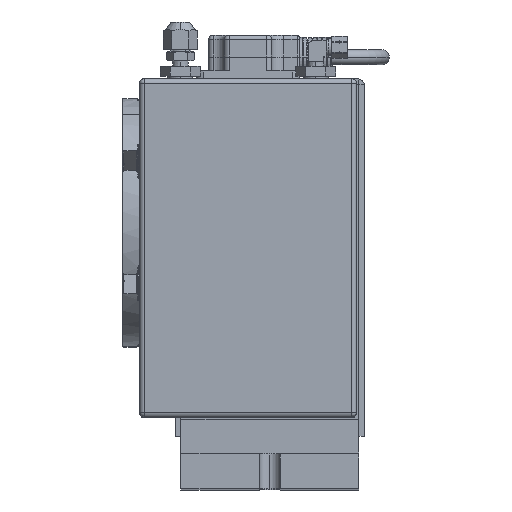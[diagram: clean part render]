
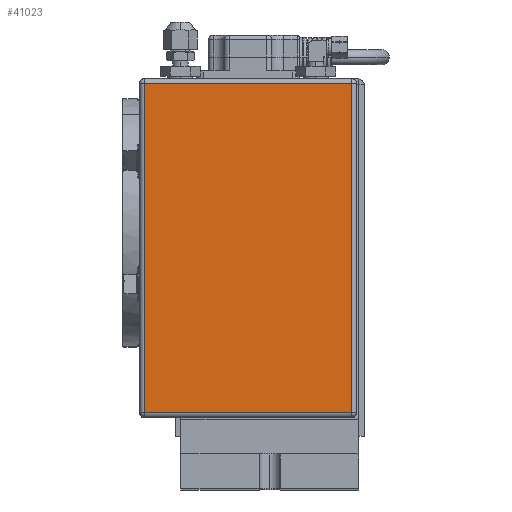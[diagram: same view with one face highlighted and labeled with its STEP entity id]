
A CAD part, top view. The second image highlights one B-rep face of the part: STEP entity #41023.
In plain terms, the highlighted planar face has unit normal (0, 0, 1).
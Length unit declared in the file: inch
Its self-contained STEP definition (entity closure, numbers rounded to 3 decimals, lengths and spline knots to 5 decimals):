
#4542 = LINE ( 'NONE', #20339, #55634 ) ;
#5807 = ORIENTED_EDGE ( 'NONE', *, *, #21365, .T. ) ;
#11626 = VECTOR ( 'NONE', #13564, 39.37008 ) ;
#13564 = DIRECTION ( 'NONE',  ( 0., 1., 0. ) ) ;
#13760 = CARTESIAN_POINT ( 'NONE',  ( -0.55, -4.83, 10.90455 ) ) ;
#16903 = ORIENTED_EDGE ( 'NONE', *, *, #41732, .T. ) ;
#17009 = ORIENTED_EDGE ( 'NONE', *, *, #52354, .T. ) ;
#19624 = LINE ( 'NONE', #20394, #62255 ) ;
#20339 = CARTESIAN_POINT ( 'NONE',  ( -3.18, -0.66, 10.90455 ) ) ;
#20394 = CARTESIAN_POINT ( 'NONE',  ( -0.55, 3.51, 10.90455 ) ) ;
#20907 = CARTESIAN_POINT ( 'NONE',  ( -0.55, -0.66, 10.90455 ) ) ;
#21267 = DIRECTION ( 'NONE',  ( -1., 0., 0. ) ) ;
#21365 = EDGE_CURVE ( 'Defeatured_3_4+Defeatured_3_15+Defeatured_3_14+Defeatured_3_10', #40507, #58435, #37298, .T. ) ;
#25267 = EDGE_LOOP ( 'NONE', ( #5807, #17009, #31488, #16903 ) ) ;
#25444 = CARTESIAN_POINT ( 'NONE',  ( 2.08, -4.83, 10.90455 ) ) ;
#26188 = FACE_OUTER_BOUND ( 'NONE', #25267, .T. ) ;
#26251 = AXIS2_PLACEMENT_3D ( 'NONE', #20907, #55998, #41278 ) ;
#31488 = ORIENTED_EDGE ( 'NONE', *, *, #34519, .T. ) ;
#34519 = EDGE_CURVE ( 'Defeatured_3_4+Defeatured_3_9+Defeatured_3_10+Defeatured_3_14', #43089, #58695, #19624, .T. ) ;
#34975 = VECTOR ( 'NONE', #48407, 39.37008 ) ;
#37298 = LINE ( 'NONE', #13760, #34975 ) ;
#40297 = DIRECTION ( 'NONE',  ( 0., -1., 0. ) ) ;
#40507 = VERTEX_POINT ( 'NONE', #60419 ) ;
#41023 = ADVANCED_FACE ( 'Defeatured_3_4', ( #26188 ), #60737, .F. ) ;
#41278 = DIRECTION ( 'NONE',  ( -1., 0., 0. ) ) ;
#41732 = EDGE_CURVE ( 'Defeatured_3_4+Defeatured_3_14+Defeatured_3_9+Defeatured_3_15', #58695, #40507, #4542, .T. ) ;
#43089 = VERTEX_POINT ( 'NONE', #56156 ) ;
#43213 = CARTESIAN_POINT ( 'NONE',  ( 2.08, -0.66, 10.90455 ) ) ;
#48407 = DIRECTION ( 'NONE',  ( 1., 0., 0. ) ) ;
#50504 = CARTESIAN_POINT ( 'NONE',  ( -3.18, 3.51, 10.90455 ) ) ;
#51909 = LINE ( 'NONE', #43213, #11626 ) ;
#52354 = EDGE_CURVE ( 'Defeatured_3_4+Defeatured_3_10+Defeatured_3_15+Defeatured_3_9', #58435, #43089, #51909, .T. ) ;
#55634 = VECTOR ( 'NONE', #40297, 39.37008 ) ;
#55998 = DIRECTION ( 'NONE',  ( 0., 0., -1. ) ) ;
#56156 = CARTESIAN_POINT ( 'NONE',  ( 2.08, 3.51, 10.90455 ) ) ;
#58435 = VERTEX_POINT ( 'NONE', #25444 ) ;
#58695 = VERTEX_POINT ( 'NONE', #50504 ) ;
#60419 = CARTESIAN_POINT ( 'NONE',  ( -3.18, -4.83, 10.90455 ) ) ;
#60737 = PLANE ( 'NONE',  #26251 ) ;
#62255 = VECTOR ( 'NONE', #21267, 39.37008 ) ;
